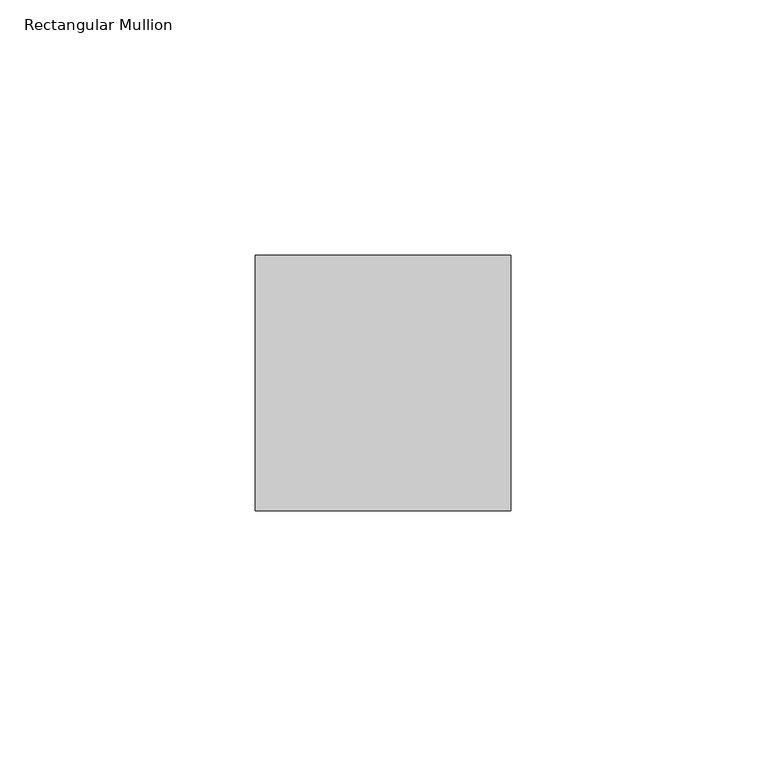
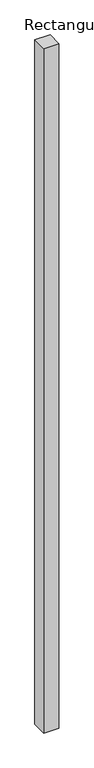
"""IFC4 building model written with IfcOpenShell, lengths in millimetres: member geometry, Rectangular Mullion : Mullion_Curtain Wall_Generic Showcase_50x50mm."""

from ifc_helpers import new_model, si_unit, frame, origin, place, context, project, spatial, polyline, outline, extrude, source, transform, mapped, element, save


def rectangular_mullion_4bf08ba9(model_context):
    return source(origin(), model_context, "Body", "SweptSolid", [
        extrude(outline(polyline([(0.0, 0.0), (0.0, -50.0), (-50.0, -50.0), (-50.0, 0.0), (0.0, 0.0)])), frame((0.0, 0.0, -2375.0), z_axis=(0.0, 0.0, 1.0), x_axis=(1.0, 0.0, 0.0)), (0.0, 0.0, 1.0), 2375.0),
    ])


if __name__ == "__main__":
    model = new_model("IFC4")
    model_context = context("Model", 3, world=origin())
    ifc_project = project(units=[si_unit("LENGTHUNIT", "METRE", prefix="MILLI")], contexts=[model_context])
    site = spatial("IfcSite", under=ifc_project)
    building = spatial("IfcBuilding", under=site)
    placement = place(None, origin())
    rectangular_mullion_shape = rectangular_mullion_4bf08ba9(model_context)
    element("IfcMember", 1, ObjectType="Rectangular Mullion : Mullion_Curtain Wall_Generic Showcase_50x50mm", at=placement, inside=building, context=model_context, shape_type="MappedRepresentation", body=[
        mapped(rectangular_mullion_shape, transform((0.0, 0.0, 0.0), x_axis=(1.0, 0.0, 0.0), y_axis=(0.0, 1.0, 0.0), z_axis=(0.0, 0.0, 1.0))),
    ])
    save(model, "model.ifc")
